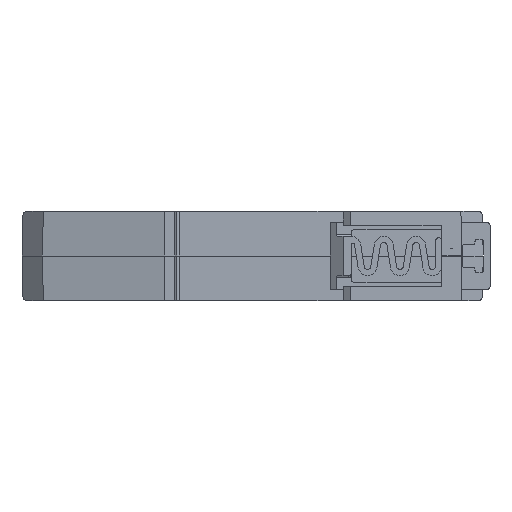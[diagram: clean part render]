
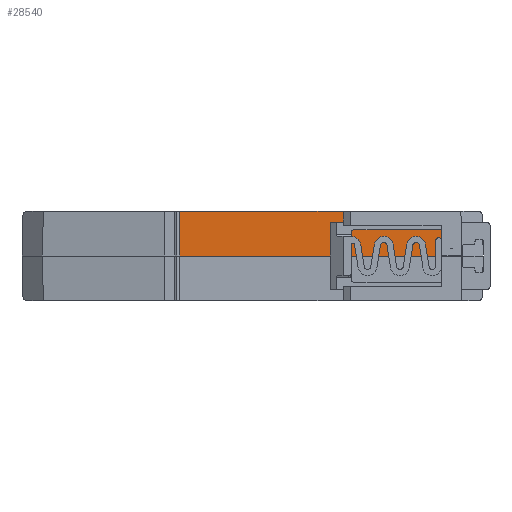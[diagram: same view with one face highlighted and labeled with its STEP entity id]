
A CAD part, front view. The second image highlights one B-rep face of the part: STEP entity #28540.
In plain terms, the highlighted planar face has unit normal (0, -1, 0).
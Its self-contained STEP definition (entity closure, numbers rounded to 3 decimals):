
#26446 = VERTEX_POINT('',#26447);
#26447 = CARTESIAN_POINT('',(25.036,5.,6.65));
#26453 = EDGE_CURVE('',#26446,#26454,#26456,.T.);
#26454 = VERTEX_POINT('',#26455);
#26455 = CARTESIAN_POINT('',(29.15,5.,6.65));
#26456 = LINE('',#26457,#26458);
#26457 = CARTESIAN_POINT('',(24.565,5.,6.65));
#26458 = VECTOR('',#26459,1.);
#26459 = DIRECTION('',(1.,0.,0.));
#27441 = VERTEX_POINT('',#27442);
#27442 = CARTESIAN_POINT('',(37.784,5.,0.));
#27448 = EDGE_CURVE('',#27449,#27441,#27451,.T.);
#27449 = VERTEX_POINT('',#27450);
#27450 = CARTESIAN_POINT('',(-14.249,5.,0.));
#27451 = LINE('',#27452,#27453);
#27452 = CARTESIAN_POINT('',(-45.,5.,0.));
#27453 = VECTOR('',#27454,1.);
#27454 = DIRECTION('',(1.,0.,-0.));
#28540 = ADVANCED_FACE('',(#28541),#28605,.F.);
#28541 = FACE_BOUND('',#28542,.T.);
#28542 = EDGE_LOOP('',(#28543,#28544,#28552,#28560,#28568,#28576,#28582,
    #28583,#28591,#28599));
#28543 = ORIENTED_EDGE('',*,*,#26453,.F.);
#28544 = ORIENTED_EDGE('',*,*,#28545,.T.);
#28545 = EDGE_CURVE('',#26446,#28546,#28548,.T.);
#28546 = VERTEX_POINT('',#28547);
#28547 = CARTESIAN_POINT('',(23.65,5.,7.45));
#28548 = LINE('',#28549,#28550);
#28549 = CARTESIAN_POINT('',(-20.823,5.,33.126));
#28550 = VECTOR('',#28551,1.);
#28551 = DIRECTION('',(-0.866,-0.,0.5));
#28552 = ORIENTED_EDGE('',*,*,#28553,.F.);
#28553 = EDGE_CURVE('',#28554,#28546,#28556,.T.);
#28554 = VERTEX_POINT('',#28555);
#28555 = CARTESIAN_POINT('',(17.65,5.,7.45));
#28556 = LINE('',#28557,#28558);
#28557 = CARTESIAN_POINT('',(17.65,5.,7.45));
#28558 = VECTOR('',#28559,1.);
#28559 = DIRECTION('',(1.,0.,0.));
#28560 = ORIENTED_EDGE('',*,*,#28561,.T.);
#28561 = EDGE_CURVE('',#28554,#28562,#28564,.T.);
#28562 = VERTEX_POINT('',#28563);
#28563 = CARTESIAN_POINT('',(17.65,5.,8.75));
#28564 = LINE('',#28565,#28566);
#28565 = CARTESIAN_POINT('',(17.65,5.,-8.75));
#28566 = VECTOR('',#28567,1.);
#28567 = DIRECTION('',(0.,0.,1.));
#28568 = ORIENTED_EDGE('',*,*,#28569,.T.);
#28569 = EDGE_CURVE('',#28562,#28570,#28572,.T.);
#28570 = VERTEX_POINT('',#28571);
#28571 = CARTESIAN_POINT('',(-14.249,5.,8.75));
#28572 = LINE('',#28573,#28574);
#28573 = CARTESIAN_POINT('',(-45.,5.,8.75));
#28574 = VECTOR('',#28575,1.);
#28575 = DIRECTION('',(-1.,-0.,-0.));
#28576 = ORIENTED_EDGE('',*,*,#28577,.T.);
#28577 = EDGE_CURVE('',#28570,#27449,#28578,.T.);
#28578 = LINE('',#28579,#28580);
#28579 = CARTESIAN_POINT('',(-14.249,5.,-8.75));
#28580 = VECTOR('',#28581,1.);
#28581 = DIRECTION('',(0.,0.,-1.));
#28582 = ORIENTED_EDGE('',*,*,#27448,.T.);
#28583 = ORIENTED_EDGE('',*,*,#28584,.F.);
#28584 = EDGE_CURVE('',#28585,#27441,#28587,.T.);
#28585 = VERTEX_POINT('',#28586);
#28586 = CARTESIAN_POINT('',(37.784,5.,7.45));
#28587 = LINE('',#28588,#28589);
#28588 = CARTESIAN_POINT('',(37.784,5.,9.812));
#28589 = VECTOR('',#28590,1.);
#28590 = DIRECTION('',(0.,0.,-1.));
#28591 = ORIENTED_EDGE('',*,*,#28592,.F.);
#28592 = EDGE_CURVE('',#28593,#28585,#28595,.T.);
#28593 = VERTEX_POINT('',#28594);
#28594 = CARTESIAN_POINT('',(29.15,5.,7.45));
#28595 = LINE('',#28596,#28597);
#28596 = CARTESIAN_POINT('',(29.15,5.,7.45));
#28597 = VECTOR('',#28598,1.);
#28598 = DIRECTION('',(1.,0.,0.));
#28599 = ORIENTED_EDGE('',*,*,#28600,.T.);
#28600 = EDGE_CURVE('',#28593,#26454,#28601,.T.);
#28601 = LINE('',#28602,#28603);
#28602 = CARTESIAN_POINT('',(29.15,5.,7.45));
#28603 = VECTOR('',#28604,1.);
#28604 = DIRECTION('',(-0.,-0.,-1.));
#28605 = PLANE('',#28606);
#28606 = AXIS2_PLACEMENT_3D('',#28607,#28608,#28609);
#28607 = CARTESIAN_POINT('',(-45.,5.,-8.75));
#28608 = DIRECTION('',(-0.,1.,0.));
#28609 = DIRECTION('',(0.,0.,1.));
